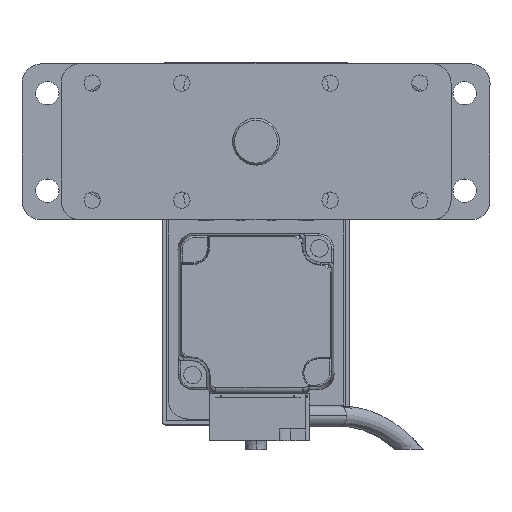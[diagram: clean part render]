
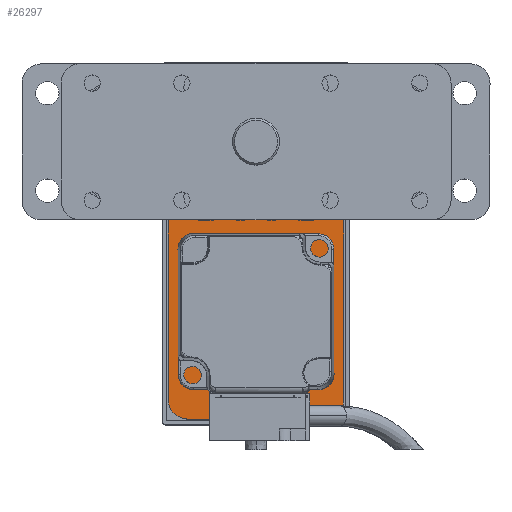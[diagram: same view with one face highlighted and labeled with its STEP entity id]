
A CAD part, top view. The second image highlights one B-rep face of the part: STEP entity #26297.
In plain terms, the highlighted planar face has unit normal (0, 0, 1).
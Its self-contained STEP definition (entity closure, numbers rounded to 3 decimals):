
#804 = CARTESIAN_POINT ( 'NONE',  ( 17.5, 45., 10. ) ) ;
#891 = AXIS2_PLACEMENT_3D ( 'NONE', #28292, #19310, #26053 ) ;
#1036 = CIRCLE ( 'NONE', #26337, 5. ) ;
#1172 = DIRECTION ( 'NONE',  ( 0., -1., 0. ) ) ;
#1850 = DIRECTION ( 'NONE',  ( 1., 0., 0. ) ) ;
#1977 = DIRECTION ( 'NONE',  ( 1., 0., 0. ) ) ;
#2166 = VERTEX_POINT ( 'NONE', #20197 ) ;
#2183 = CIRCLE ( 'NONE', #891, 5. ) ;
#2905 = CARTESIAN_POINT ( 'NONE',  ( 22.5, -45., 10. ) ) ;
#3226 = CARTESIAN_POINT ( 'NONE',  ( 17.5, 40., 10. ) ) ;
#3317 = DIRECTION ( 'NONE',  ( 0., 0., 1. ) ) ;
#3675 = ORIENTED_EDGE ( 'NONE', *, *, #12742, .T. ) ;
#3687 = VERTEX_POINT ( 'NONE', #20426 ) ;
#4613 = LINE ( 'NONE', #21535, #19952 ) ;
#5341 = VECTOR ( 'NONE', #19753, 1000. ) ;
#6337 = CARTESIAN_POINT ( 'NONE',  ( 17.5, -40., 10. ) ) ;
#6461 = AXIS2_PLACEMENT_3D ( 'NONE', #16602, #3317, #1850 ) ;
#6550 = VERTEX_POINT ( 'NONE', #804 ) ;
#7244 = EDGE_CURVE ( 'NONE', #15389, #8687, #2183, .T. ) ;
#7360 = EDGE_CURVE ( 'NONE', #3687, #22711, #14649, .T. ) ;
#7922 = ORIENTED_EDGE ( 'NONE', *, *, #21182, .T. ) ;
#8461 = CIRCLE ( 'NONE', #15915, 5. ) ;
#8619 = ORIENTED_EDGE ( 'NONE', *, *, #12662, .T. ) ;
#8687 = VERTEX_POINT ( 'NONE', #24753 ) ;
#11941 = CARTESIAN_POINT ( 'NONE',  ( 22.5, -40., 10. ) ) ;
#12513 = CARTESIAN_POINT ( 'NONE',  ( -17.5, 45., 10. ) ) ;
#12662 = EDGE_CURVE ( 'NONE', #21134, #6550, #1036, .T. ) ;
#12742 = EDGE_CURVE ( 'NONE', #2166, #15389, #19160, .T. ) ;
#12979 = CARTESIAN_POINT ( 'NONE',  ( -17.5, 40., 10. ) ) ;
#13226 = VECTOR ( 'NONE', #1172, 1000. ) ;
#13232 = CARTESIAN_POINT ( 'NONE',  ( -22.5, -40., 10. ) ) ;
#13569 = CARTESIAN_POINT ( 'NONE',  ( 22.5, 45., 10. ) ) ;
#13860 = CARTESIAN_POINT ( 'NONE',  ( 22.5, 40., 10. ) ) ;
#14467 = DIRECTION ( 'NONE',  ( 0., 0., 1. ) ) ;
#14649 = CIRCLE ( 'NONE', #16323, 5. ) ;
#14658 = PLANE ( 'NONE',  #6461 ) ;
#15103 = DIRECTION ( 'NONE',  ( 1., 0., 0. ) ) ;
#15184 = ORIENTED_EDGE ( 'NONE', *, *, #7244, .T. ) ;
#15237 = EDGE_LOOP ( 'NONE', ( #21103, #8619, #17369, #22876, #3675, #15184, #7922, #19363 ) ) ;
#15302 = DIRECTION ( 'NONE',  ( 0., 0., 1. ) ) ;
#15389 = VERTEX_POINT ( 'NONE', #13232 ) ;
#15915 = AXIS2_PLACEMENT_3D ( 'NONE', #12979, #15302, #15103 ) ;
#16232 = LINE ( 'NONE', #2905, #17983 ) ;
#16323 = AXIS2_PLACEMENT_3D ( 'NONE', #6337, #26725, #1977 ) ;
#16438 = LINE ( 'NONE', #13569, #5341 ) ;
#16602 = CARTESIAN_POINT ( 'NONE',  ( 0., 0., 10. ) ) ;
#17069 = EDGE_CURVE ( 'NONE', #6550, #22063, #16438, .T. ) ;
#17369 = ORIENTED_EDGE ( 'NONE', *, *, #17069, .T. ) ;
#17983 = VECTOR ( 'NONE', #18490, 1000. ) ;
#18490 = DIRECTION ( 'NONE',  ( 1., 0., 0. ) ) ;
#19160 = LINE ( 'NONE', #23199, #13226 ) ;
#19310 = DIRECTION ( 'NONE',  ( 0., 0., 1. ) ) ;
#19363 = ORIENTED_EDGE ( 'NONE', *, *, #7360, .T. ) ;
#19753 = DIRECTION ( 'NONE',  ( -1., 0., 0. ) ) ;
#19952 = VECTOR ( 'NONE', #21442, 1000. ) ;
#20197 = CARTESIAN_POINT ( 'NONE',  ( -22.5, 40., 10. ) ) ;
#20426 = CARTESIAN_POINT ( 'NONE',  ( 17.5, -45., 10. ) ) ;
#21051 = DIRECTION ( 'NONE',  ( 1., 0., 0. ) ) ;
#21103 = ORIENTED_EDGE ( 'NONE', *, *, #21767, .T. ) ;
#21134 = VERTEX_POINT ( 'NONE', #13860 ) ;
#21182 = EDGE_CURVE ( 'NONE', #8687, #3687, #16232, .T. ) ;
#21442 = DIRECTION ( 'NONE',  ( 0., 1., 0. ) ) ;
#21507 = FACE_OUTER_BOUND ( 'NONE', #15237, .T. ) ;
#21535 = CARTESIAN_POINT ( 'NONE',  ( 22.5, -45., 10. ) ) ;
#21767 = EDGE_CURVE ( 'NONE', #22711, #21134, #4613, .T. ) ;
#22063 = VERTEX_POINT ( 'NONE', #12513 ) ;
#22711 = VERTEX_POINT ( 'NONE', #11941 ) ;
#22876 = ORIENTED_EDGE ( 'NONE', *, *, #23083, .T. ) ;
#23083 = EDGE_CURVE ( 'NONE', #22063, #2166, #8461, .T. ) ;
#23199 = CARTESIAN_POINT ( 'NONE',  ( -22.5, -45., 10. ) ) ;
#24753 = CARTESIAN_POINT ( 'NONE',  ( -17.5, -45., 10. ) ) ;
#26053 = DIRECTION ( 'NONE',  ( 1., 0., 0. ) ) ;
#26297 = ADVANCED_FACE ( 'NONE', ( #21507 ), #14658, .T. ) ;
#26337 = AXIS2_PLACEMENT_3D ( 'NONE', #3226, #14467, #21051 ) ;
#26725 = DIRECTION ( 'NONE',  ( 0., 0., 1. ) ) ;
#28292 = CARTESIAN_POINT ( 'NONE',  ( -17.5, -40., 10. ) ) ;
